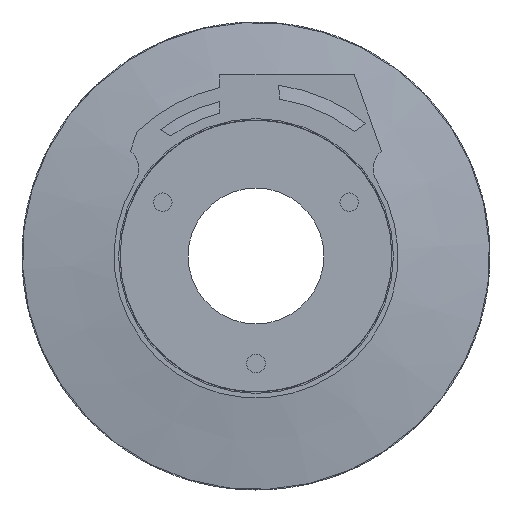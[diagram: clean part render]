
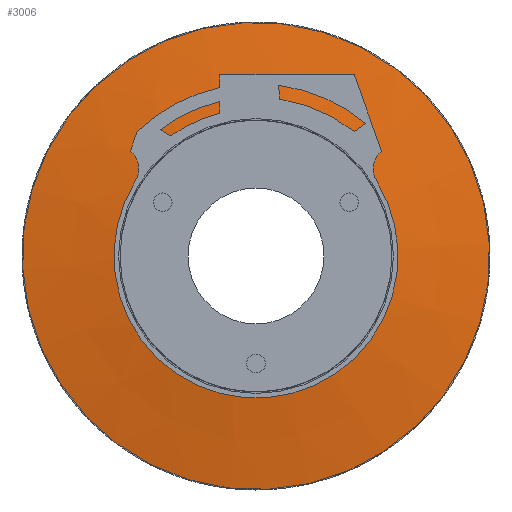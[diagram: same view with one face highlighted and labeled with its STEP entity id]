
A CAD part, front view. The second image highlights one B-rep face of the part: STEP entity #3006.
In plain terms, the highlighted conical face has half-angle 81.265 degrees and reference radius 65.486 mm.
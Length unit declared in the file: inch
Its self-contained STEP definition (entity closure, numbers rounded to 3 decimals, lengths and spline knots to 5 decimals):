
#631 = DIRECTION ( 'NONE',  ( 0.547, 0., -0.837 ) ) ;
#646 = DIRECTION ( 'NONE',  ( 0., 1., 0. ) ) ;
#650 = CARTESIAN_POINT ( 'NONE',  ( -11.11667, 8.10725, 0. ) ) ;
#769 = AXIS2_PLACEMENT_3D ( 'NONE', #1434, #1458, #1417 ) ;
#771 = AXIS2_PLACEMENT_3D ( 'NONE', #650, #646, #631 ) ;
#840 = AXIS2_PLACEMENT_3D ( 'NONE', #3520, #3293, #3175 ) ;
#1057 = FACE_OUTER_BOUND ( 'NONE', #3647, .T. ) ;
#1103 = FACE_BOUND ( 'NONE', #3682, .T. ) ;
#1296 = CONICAL_SURFACE ( 'NONE', #840, 2.57819, 1.418 ) ;
#1305 = CIRCLE ( 'NONE', #769, 2.57819 ) ;
#1308 = CIRCLE ( 'NONE', #771, 1.516 ) ;
#1417 = DIRECTION ( 'NONE',  ( 0.547, 0., -0.837 ) ) ;
#1434 = CARTESIAN_POINT ( 'NONE',  ( -11.11667, 8.27045, 0. ) ) ;
#1458 = DIRECTION ( 'NONE',  ( 0., 1., 0. ) ) ;
#1549 = VERTEX_POINT ( 'NONE', #3984 ) ;
#1583 = VERTEX_POINT ( 'NONE', #3986 ) ;
#3006 = ADVANCED_FACE ( 'NONE', ( #1057, #1103 ), #1296, .T. ) ;
#3175 = DIRECTION ( 'NONE',  ( 0., 0., 1. ) ) ;
#3293 = DIRECTION ( 'NONE',  ( 0., 1., 0. ) ) ;
#3520 = CARTESIAN_POINT ( 'NONE',  ( -11.11667, 8.27045, 0. ) ) ;
#3647 = EDGE_LOOP ( 'NONE', ( #4376 ) ) ;
#3682 = EDGE_LOOP ( 'NONE', ( #4360 ) ) ;
#3984 = CARTESIAN_POINT ( 'NONE',  ( -10.2875, 8.10725, -1.26915 ) ) ;
#3986 = CARTESIAN_POINT ( 'NONE',  ( -9.70654, 8.27045, -2.15838 ) ) ;
#4360 = ORIENTED_EDGE ( 'NONE', *, *, #4576, .T. ) ;
#4376 = ORIENTED_EDGE ( 'NONE', *, *, #4580, .F. ) ;
#4576 = EDGE_CURVE ( 'NONE', #1549, #1549, #1308, .T. ) ;
#4580 = EDGE_CURVE ( 'NONE', #1583, #1583, #1305, .T. ) ;
